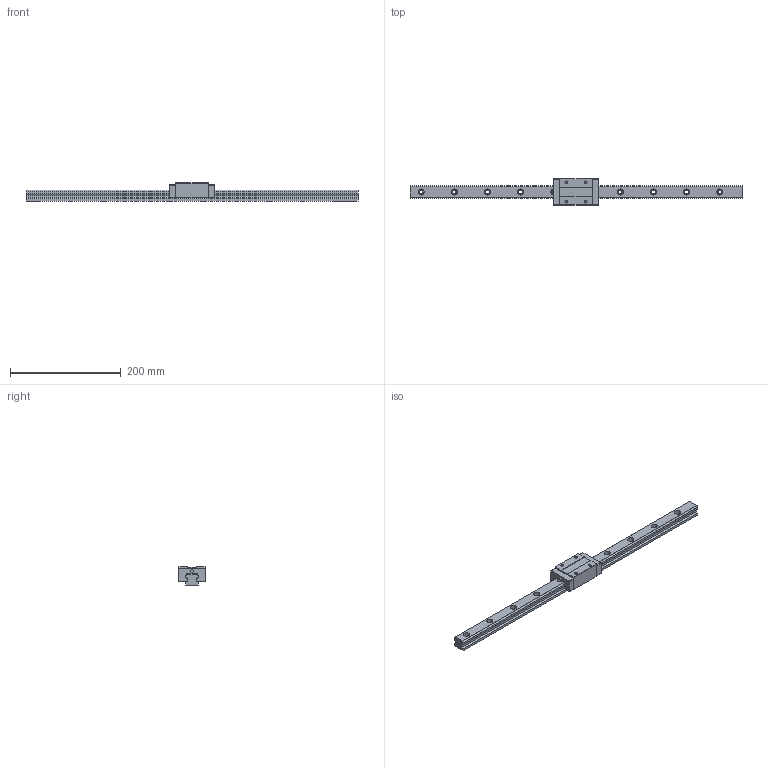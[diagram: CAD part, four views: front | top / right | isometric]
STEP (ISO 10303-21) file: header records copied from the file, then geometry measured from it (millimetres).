
FILE_DESCRIPTION(/* description */ (''),/* implementation_level */ '2;1');
FILE_NAME(/* name */ 'TRS25VN-XN.stp',/* time_stamp */ '2017-10-25T17:09:18+08:00',/* author */ (''),/* organization */ (''),/* preprocessor_version */ 'ST-DEVELOPER v11',/* originating_system */ 'SIEMENS UGS NX 6.0',/* authorisation */ '');
FILE_SCHEMA (('AUTOMOTIVE_DESIGN { 1 0 10303 214 1 1 1 1 }'));
Length unit declared in the file: millimetre
Products named in the file (1): TRS25VN-XN
Bounding box: 600 x 48 x 33 mm (x, y, z)
Volume: 311609.2 mm3; surface area: 75872.2 mm2
Topology: 2 solids, 2 shells, 126 faces, 312 edges, 206 vertices
Faces by surface type: plane 80, cylinder 46
Full cylindrical faces by diameter (mm): 5 x6, 7 x10, 11 x10
Entity records: 4094 total; most frequent: DIRECTION 622, CARTESIAN_POINT 599, ORIENTED_EDGE 552, EDGE_CURVE 276, AXIS2_PLACEMENT_3D 219, VERTEX_POINT 196, EDGE_LOOP 188, LINE 184
